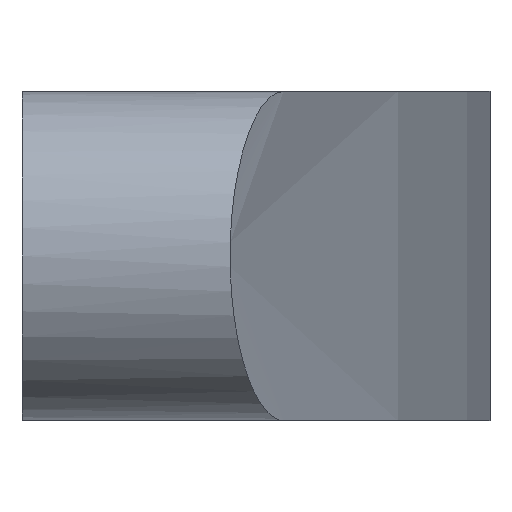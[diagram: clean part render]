
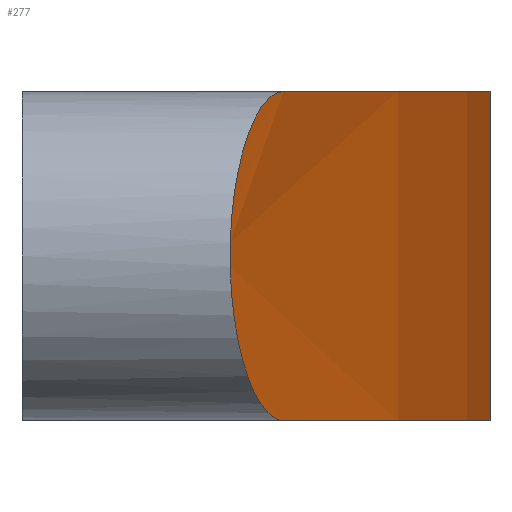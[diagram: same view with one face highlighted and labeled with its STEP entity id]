
A CAD part, left-side view. The second image highlights one B-rep face of the part: STEP entity #277.
In plain terms, the highlighted cylindrical face has radius 274.54 mm (diameter 549.08 mm), a partial arc.
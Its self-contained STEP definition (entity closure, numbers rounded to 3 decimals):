
#119 = VERTEX_POINT( '', #317 );
#167 = EDGE_CURVE( '', #231, #205, #366, .T. );
#181 = EDGE_CURVE( '', #279, #119, #380, .T. );
#189 = EDGE_CURVE( '', #205, #279, #392, .T. );
#205 = VERTEX_POINT( '', #409 );
#221 = EDGE_CURVE( '', #231, #119, #428, .T. );
#231 = VERTEX_POINT( '', #440 );
#277 = ADVANCED_FACE( '', ( #492 ), #493, .T. );
#279 = VERTEX_POINT( '', #495 );
#317 = CARTESIAN_POINT( '', ( 0., -15.086, -9.5 ) );
#366 = B_SPLINE_CURVE_WITH_KNOTS( '', 3, ( #658, #659, #660, #661, #662, #663, #664, #665, #666, #667, #668, #669, #670, #671, #672, #673, #674, #675, #676, #677, #678, #679, #680, #681, #682, #683, #684, #685, #686, #687, #688, #689, #690, #691 ), .UNSPECIFIED., .F., .F., ( 4, 2, 2, 2, 2, 2, 2, 2, 2, 2, 2, 2, 2, 2, 2, 2, 4 ), ( 14.607, 16.49, 18.373, 20.256, 22.14, 23.926, 25.712, 27.499, 29.285, 31.071, 32.858, 34.644, 36.43, 38.314, 40.197, 42.08, 43.963 ), .UNSPECIFIED. );
#380 = B_SPLINE_CURVE_WITH_KNOTS( '', 3, ( #736, #737, #738, #739, #740, #741, #742, #743, #744, #745, #746, #747, #748, #749, #750, #751, #752, #753, #754, #755, #756, #757, #758, #759, #760, #761, #762, #763, #764, #765, #766, #767, #768, #769, #770 ), .UNSPECIFIED., .F., .F., ( 4, 2, 2, 2, 2, 2, 2, 2, 3, 2, 2, 2, 2, 2, 2, 2, 4 ), ( -14.678, -12.795, -10.912, -9.029, -7.145, -5.359, -3.573, -1.786, 0., 1.786, 3.573, 5.359, 7.145, 9.029, 10.912, 12.795, 14.678 ), .UNSPECIFIED. );
#392 = CIRCLE( '', #783, 274.54 );
#409 = CARTESIAN_POINT( '', ( 160., -15.086, 9.5 ) );
#428 = CIRCLE( '', #831, 274.54 );
#440 = CARTESIAN_POINT( '', ( 160., -15.086, -9.5 ) );
#492 = FACE_OUTER_BOUND( '', #912, .T. );
#493 = CYLINDRICAL_SURFACE( '', #913, 274.54 );
#495 = CARTESIAN_POINT( '', ( 0., -15.086, 9.5 ) );
#658 = CARTESIAN_POINT( '', ( 160., -15.086, -9.5 ) );
#659 = CARTESIAN_POINT( '', ( 160.601, -14.903, -9.5 ) );
#660 = CARTESIAN_POINT( '', ( 161.222, -14.711, -9.442 ) );
#661 = CARTESIAN_POINT( '', ( 162.458, -14.325, -9.198 ) );
#662 = CARTESIAN_POINT( '', ( 163.073, -14.13, -9.012 ) );
#663 = CARTESIAN_POINT( '', ( 164.255, -13.752, -8.518 ) );
#664 = CARTESIAN_POINT( '', ( 164.822, -13.569, -8.21 ) );
#665 = CARTESIAN_POINT( '', ( 165.872, -13.225, -7.495 ) );
#666 = CARTESIAN_POINT( '', ( 166.355, -13.066, -7.088 ) );
#667 = CARTESIAN_POINT( '', ( 167.189, -12.788, -6.237 ) );
#668 = CARTESIAN_POINT( '', ( 167.573, -12.659, -5.769 ) );
#669 = CARTESIAN_POINT( '', ( 168.252, -12.429, -4.747 ) );
#670 = CARTESIAN_POINT( '', ( 168.548, -12.328, -4.193 ) );
#671 = CARTESIAN_POINT( '', ( 169.024, -12.166, -3.035 ) );
#672 = CARTESIAN_POINT( '', ( 169.205, -12.103, -2.43 ) );
#673 = CARTESIAN_POINT( '', ( 169.443, -12.021, -1.21 ) );
#674 = CARTESIAN_POINT( '', ( 169.5, -12.002, -0.595 ) );
#675 = CARTESIAN_POINT( '', ( 169.5, -12.002, 0.595 ) );
#676 = CARTESIAN_POINT( '', ( 169.443, -12.021, 1.21 ) );
#677 = CARTESIAN_POINT( '', ( 169.205, -12.103, 2.43 ) );
#678 = CARTESIAN_POINT( '', ( 169.024, -12.166, 3.035 ) );
#679 = CARTESIAN_POINT( '', ( 168.548, -12.328, 4.193 ) );
#680 = CARTESIAN_POINT( '', ( 168.252, -12.429, 4.747 ) );
#681 = CARTESIAN_POINT( '', ( 167.573, -12.659, 5.769 ) );
#682 = CARTESIAN_POINT( '', ( 167.189, -12.788, 6.237 ) );
#683 = CARTESIAN_POINT( '', ( 166.355, -13.066, 7.088 ) );
#684 = CARTESIAN_POINT( '', ( 165.872, -13.225, 7.495 ) );
#685 = CARTESIAN_POINT( '', ( 164.822, -13.569, 8.21 ) );
#686 = CARTESIAN_POINT( '', ( 164.255, -13.752, 8.518 ) );
#687 = CARTESIAN_POINT( '', ( 163.073, -14.13, 9.012 ) );
#688 = CARTESIAN_POINT( '', ( 162.458, -14.325, 9.198 ) );
#689 = CARTESIAN_POINT( '', ( 161.222, -14.711, 9.442 ) );
#690 = CARTESIAN_POINT( '', ( 160.601, -14.903, 9.5 ) );
#691 = CARTESIAN_POINT( '', ( 160., -15.086, 9.5 ) );
#736 = CARTESIAN_POINT( '', ( 0., -15.086, 9.5 ) );
#737 = CARTESIAN_POINT( '', ( -0.601, -14.903, 9.5 ) );
#738 = CARTESIAN_POINT( '', ( -1.222, -14.711, 9.442 ) );
#739 = CARTESIAN_POINT( '', ( -2.458, -14.325, 9.198 ) );
#740 = CARTESIAN_POINT( '', ( -3.073, -14.13, 9.012 ) );
#741 = CARTESIAN_POINT( '', ( -4.255, -13.752, 8.518 ) );
#742 = CARTESIAN_POINT( '', ( -4.822, -13.569, 8.21 ) );
#743 = CARTESIAN_POINT( '', ( -5.872, -13.225, 7.495 ) );
#744 = CARTESIAN_POINT( '', ( -6.355, -13.066, 7.088 ) );
#745 = CARTESIAN_POINT( '', ( -7.189, -12.788, 6.237 ) );
#746 = CARTESIAN_POINT( '', ( -7.573, -12.659, 5.769 ) );
#747 = CARTESIAN_POINT( '', ( -8.252, -12.429, 4.747 ) );
#748 = CARTESIAN_POINT( '', ( -8.548, -12.328, 4.193 ) );
#749 = CARTESIAN_POINT( '', ( -9.024, -12.166, 3.035 ) );
#750 = CARTESIAN_POINT( '', ( -9.205, -12.103, 2.43 ) );
#751 = CARTESIAN_POINT( '', ( -9.443, -12.021, 1.21 ) );
#752 = CARTESIAN_POINT( '', ( -9.5, -12.002, 0.595 ) );
#753 = CARTESIAN_POINT( '', ( -9.5, -12.002, 0. ) );
#754 = CARTESIAN_POINT( '', ( -9.5, -12.002, -0.595 ) );
#755 = CARTESIAN_POINT( '', ( -9.443, -12.021, -1.21 ) );
#756 = CARTESIAN_POINT( '', ( -9.205, -12.103, -2.43 ) );
#757 = CARTESIAN_POINT( '', ( -9.024, -12.166, -3.035 ) );
#758 = CARTESIAN_POINT( '', ( -8.548, -12.328, -4.193 ) );
#759 = CARTESIAN_POINT( '', ( -8.252, -12.429, -4.747 ) );
#760 = CARTESIAN_POINT( '', ( -7.573, -12.659, -5.769 ) );
#761 = CARTESIAN_POINT( '', ( -7.189, -12.788, -6.237 ) );
#762 = CARTESIAN_POINT( '', ( -6.355, -13.066, -7.088 ) );
#763 = CARTESIAN_POINT( '', ( -5.872, -13.225, -7.495 ) );
#764 = CARTESIAN_POINT( '', ( -4.822, -13.569, -8.21 ) );
#765 = CARTESIAN_POINT( '', ( -4.255, -13.752, -8.518 ) );
#766 = CARTESIAN_POINT( '', ( -3.073, -14.13, -9.012 ) );
#767 = CARTESIAN_POINT( '', ( -2.458, -14.325, -9.198 ) );
#768 = CARTESIAN_POINT( '', ( -1.222, -14.711, -9.442 ) );
#769 = CARTESIAN_POINT( '', ( -0.601, -14.903, -9.5 ) );
#770 = CARTESIAN_POINT( '', ( 0., -15.086, -9.5 ) );
#783 = AXIS2_PLACEMENT_3D( '', #993, #994, #995 );
#831 = AXIS2_PLACEMENT_3D( '', #1045, #1046, #1047 );
#912 = EDGE_LOOP( '', ( #1138, #1139, #1140, #1141 ) );
#913 = AXIS2_PLACEMENT_3D( '', #1142, #1143, #1144 );
#993 = CARTESIAN_POINT( '', ( 80., 247.54, 9.5 ) );
#994 = DIRECTION( '', ( 0., 0., -1. ) );
#995 = DIRECTION( '', ( 0.5, -0.866, 0. ) );
#1045 = CARTESIAN_POINT( '', ( 80., 247.54, -9.5 ) );
#1046 = DIRECTION( '', ( 0., 0., -1. ) );
#1047 = DIRECTION( '', ( 0.5, -0.866, 0. ) );
#1138 = ORIENTED_EDGE( '', *, *, #167, .T. );
#1139 = ORIENTED_EDGE( '', *, *, #189, .T. );
#1140 = ORIENTED_EDGE( '', *, *, #181, .T. );
#1141 = ORIENTED_EDGE( '', *, *, #221, .F. );
#1142 = CARTESIAN_POINT( '', ( 80., 247.54, 0. ) );
#1143 = DIRECTION( '', ( 0., 0., 1. ) );
#1144 = DIRECTION( '', ( 0.5, -0.866, 0. ) );
